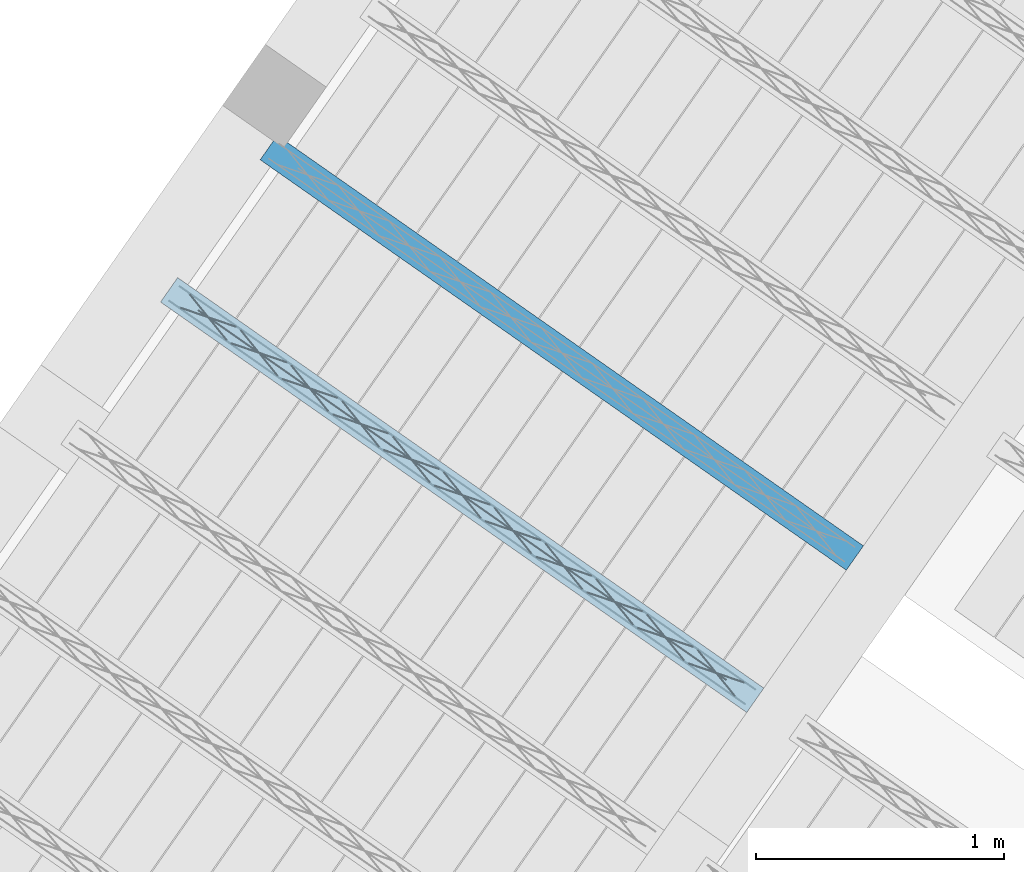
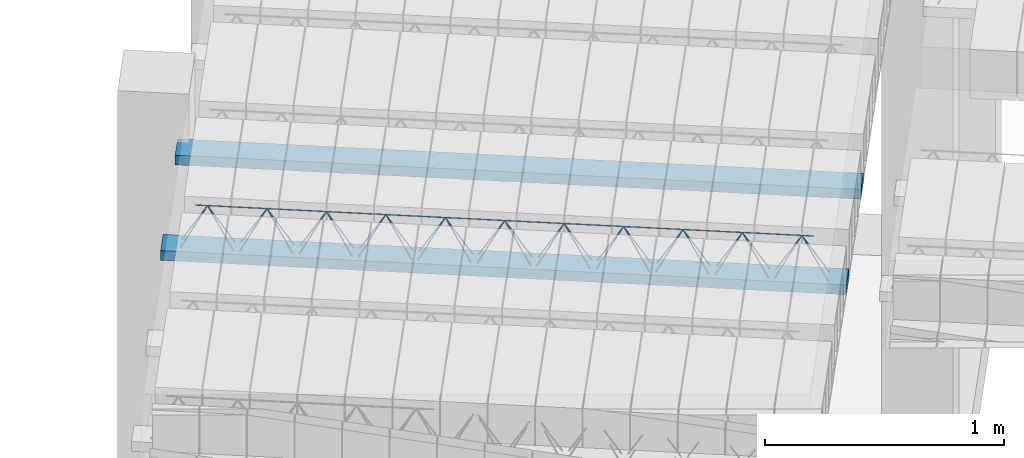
# One storey, part 31 of 80: 2 beams.
"""IFC2X3 building model written with IfcOpenShell, lengths in metres."""

from ifc_helpers import new_model, entity, si_unit, converted_unit, derived_unit, direction, frame, frame_2d, origin, origin_2d_with_axis, place, context, subcontext, project, spatial, rectangle, circle, extrude, material, type_object, element, save


model = new_model("IFC2X3")

# Units and contexts
model_context = context("Model", 3, precision=1e-05, world=origin(), true_north=direction((6.123031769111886e-17, 1.0)))
body_context = subcontext(model_context, "Body", "Model", "MODEL_VIEW")
ifc_project = project(units=[si_unit("LENGTHUNIT", "METRE"), si_unit("AREAUNIT", "SQUARE_METRE"), si_unit("VOLUMEUNIT", "CUBIC_METRE"), converted_unit("PLANEANGLEUNIT", "DEGREE", entity("IfcPlaneAngleMeasure", 0.017453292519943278), si_unit("PLANEANGLEUNIT", "RADIAN"), dimensions=[0, 0, 0, 0, 0, 0, 0]), si_unit("MASSUNIT", "GRAM", prefix="KILO"), derived_unit("MASSDENSITYUNIT", [(si_unit("MASSUNIT", "GRAM", prefix="KILO"), 1), (si_unit("LENGTHUNIT", "METRE"), -3)]), derived_unit("IONCONCENTRATIONUNIT", [(si_unit("MASSUNIT", "GRAM", prefix="KILO"), 1), (si_unit("LENGTHUNIT", "METRE"), -3)]), derived_unit("MOMENTOFINERTIAUNIT", [(si_unit("LENGTHUNIT", "METRE"), 4)]), si_unit("TIMEUNIT", "SECOND"), si_unit("FREQUENCYUNIT", "HERTZ"), si_unit("THERMODYNAMICTEMPERATUREUNIT", "DEGREE_CELSIUS"), derived_unit("THERMALTRANSMITTANCEUNIT", [(si_unit("MASSUNIT", "GRAM", prefix="KILO"), 1), (si_unit("THERMODYNAMICTEMPERATUREUNIT", "KELVIN"), -1), (si_unit("TIMEUNIT", "SECOND"), -3)]), derived_unit("THERMALCONDUCTANCEUNIT", [(si_unit("MASSUNIT", "GRAM", prefix="KILO"), 1), (si_unit("THERMODYNAMICTEMPERATUREUNIT", "KELVIN"), -1), (si_unit("TIMEUNIT", "SECOND"), -3), (si_unit("LENGTHUNIT", "METRE"), 1)]), derived_unit("VOLUMETRICFLOWRATEUNIT", [(si_unit("LENGTHUNIT", "METRE", prefix="DECI"), 3), (si_unit("TIMEUNIT", "SECOND"), -1)]), derived_unit("MASSFLOWRATEUNIT", [(si_unit("MASSUNIT", "GRAM", prefix="KILO"), 1), (si_unit("TIMEUNIT", "SECOND"), -1)]), derived_unit("ROTATIONALFREQUENCYUNIT", [(si_unit("TIMEUNIT", "SECOND"), -1)]), si_unit("ELECTRICCURRENTUNIT", "AMPERE"), si_unit("ELECTRICVOLTAGEUNIT", "VOLT"), si_unit("POWERUNIT", "WATT"), si_unit("FORCEUNIT", "NEWTON", prefix="KILO"), si_unit("ILLUMINANCEUNIT", "LUX"), si_unit("LUMINOUSFLUXUNIT", "LUMEN"), si_unit("LUMINOUSINTENSITYUNIT", "CANDELA"), si_unit("ENERGYUNIT", "JOULE"), derived_unit("USERDEFINED", [(si_unit("MASSUNIT", "GRAM", prefix="KILO"), -1), (si_unit("LENGTHUNIT", "METRE"), -2), (si_unit("TIMEUNIT", "SECOND"), 3), (si_unit("LUMINOUSFLUXUNIT", "LUMEN"), 1)]), derived_unit("USERDEFINED", [(si_unit("MASSUNIT", "GRAM", prefix="KILO"), 1), (si_unit("TIMEUNIT", "SECOND"), -3), (si_unit("LENGTHUNIT", "METRE"), 3), (si_unit("ELECTRICCURRENTUNIT", "AMPERE"), -2)]), derived_unit("SOUNDPOWERUNIT", [(si_unit("MASSUNIT", "GRAM", prefix="KILO"), 1), (si_unit("TIMEUNIT", "SECOND"), -3), (si_unit("LENGTHUNIT", "METRE"), 2)]), derived_unit("SOUNDPRESSUREUNIT", [(si_unit("MASSUNIT", "GRAM", prefix="KILO"), 1), (si_unit("LENGTHUNIT", "METRE"), -1), (si_unit("TIMEUNIT", "SECOND"), -2)]), derived_unit("LINEARVELOCITYUNIT", [(si_unit("LENGTHUNIT", "METRE"), 1), (si_unit("TIMEUNIT", "SECOND"), -1)]), si_unit("PRESSUREUNIT", "PASCAL"), derived_unit("USERDEFINED", [(si_unit("MASSUNIT", "GRAM", prefix="KILO"), 1), (si_unit("LENGTHUNIT", "METRE"), -2), (si_unit("TIMEUNIT", "SECOND"), -2)]), derived_unit("LINEARFORCEUNIT", [(si_unit("MASSUNIT", "GRAM", prefix="KILO"), 1), (si_unit("TIMEUNIT", "SECOND"), -2)]), derived_unit("PLANARFORCEUNIT", [(si_unit("MASSUNIT", "GRAM", prefix="KILO"), 1), (si_unit("LENGTHUNIT", "METRE"), -1), (si_unit("TIMEUNIT", "SECOND"), -2)]), derived_unit("SPECIFICHEATCAPACITYUNIT", [(si_unit("THERMODYNAMICTEMPERATUREUNIT", "KELVIN"), -1), (si_unit("LENGTHUNIT", "METRE"), 2), (si_unit("TIMEUNIT", "SECOND"), -2)]), derived_unit("HEATFLUXDENSITYUNIT", [(si_unit("MASSUNIT", "GRAM", prefix="KILO"), 1), (si_unit("TIMEUNIT", "SECOND"), -3)]), derived_unit("HEATINGVALUEUNIT", [(si_unit("LENGTHUNIT", "METRE"), 2), (si_unit("TIMEUNIT", "SECOND"), -2)]), derived_unit("VAPORPERMEABILITYUNIT", [(si_unit("LENGTHUNIT", "METRE"), -1), (si_unit("TIMEUNIT", "SECOND"), 1)]), derived_unit("DYNAMICVISCOSITYUNIT", [(si_unit("MASSUNIT", "GRAM", prefix="KILO"), 1), (si_unit("TIMEUNIT", "SECOND"), -1), (si_unit("LENGTHUNIT", "METRE"), -1)]), derived_unit("THERMALEXPANSIONCOEFFICIENTUNIT", [(si_unit("THERMODYNAMICTEMPERATUREUNIT", "KELVIN"), -1)]), derived_unit("MODULUSOFELASTICITYUNIT", [(si_unit("MASSUNIT", "GRAM", prefix="KILO"), 1), (si_unit("LENGTHUNIT", "METRE"), -1), (si_unit("TIMEUNIT", "SECOND"), -2)]), derived_unit("ISOTHERMALMOISTURECAPACITYUNIT", [(si_unit("MASSUNIT", "GRAM", prefix="KILO"), -1), (si_unit("LENGTHUNIT", "METRE"), 3)]), derived_unit("MOISTUREDIFFUSIVITYUNIT", [(si_unit("TIMEUNIT", "SECOND"), -1), (si_unit("LENGTHUNIT", "METRE"), 2)]), derived_unit("MASSPERLENGTHUNIT", [(si_unit("MASSUNIT", "GRAM", prefix="KILO"), 1), (si_unit("LENGTHUNIT", "METRE"), -1)]), derived_unit("THERMALRESISTANCEUNIT", [(si_unit("MASSUNIT", "GRAM", prefix="KILO"), -1), (si_unit("TIMEUNIT", "SECOND"), 3), (si_unit("THERMODYNAMICTEMPERATUREUNIT", "KELVIN"), 1)]), derived_unit("ACCELERATIONUNIT", [(si_unit("LENGTHUNIT", "METRE"), 1), (si_unit("TIMEUNIT", "SECOND"), -2)]), derived_unit("ANGULARVELOCITYUNIT", [(si_unit("TIMEUNIT", "SECOND"), -1), (si_unit("PLANEANGLEUNIT", "RADIAN"), 1)]), derived_unit("LINEARSTIFFNESSUNIT", [(si_unit("MASSUNIT", "GRAM", prefix="KILO"), 1), (si_unit("TIMEUNIT", "SECOND"), -2)]), derived_unit("WARPINGCONSTANTUNIT", [(si_unit("LENGTHUNIT", "METRE"), 6)]), derived_unit("LINEARMOMENTUNIT", [(si_unit("MASSUNIT", "GRAM", prefix="KILO"), 1), (si_unit("LENGTHUNIT", "METRE"), 1), (si_unit("TIMEUNIT", "SECOND"), -2)]), derived_unit("TORQUEUNIT", [(si_unit("MASSUNIT", "GRAM", prefix="KILO"), 1), (si_unit("LENGTHUNIT", "METRE"), 2), (si_unit("TIMEUNIT", "SECOND"), -2)])], contexts=[model_context])

# Site, building, storey
site_placement = place(None, origin())
site = spatial("IfcSite", under=ifc_project, at=site_placement, Name="Default", CompositionType="ELEMENT")
building_placement = place(site_placement, origin())
building = spatial("IfcBuilding", under=site, at=building_placement, CompositionType="ELEMENT")
storey_placement = place(building_placement, frame((0.0, 0.0, 95.94)))
storey = spatial("IfcBuildingStorey", under=building, at=storey_placement, Name="PB", CompositionType="ELEMENT", Elevation=95.94)

# Beams
beam_type = type_object("IfcBeamType", Name="Vigueta 9 (Paño 2) (Mf = 11)", PredefinedType="JOIST")
beam_1_placement = place(storey_placement, origin())
element("IfcBeam", 1, at=beam_1_placement, inside=storey, type_object=beam_type, Name="Vigueta 9 (Paño 2) (Mf = 11)", ObjectType="Mf = 11", context=body_context, shape_type="SweptSolid", body=[
    extrude(rectangle(XDim=2.8844972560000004, YDim=0.12000000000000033, at=frame_2d((-2.220446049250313e-16, -2.706168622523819e-16), x_axis=(1.0, 0.0))), frame((3.2134171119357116, 6.478823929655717, 2.82), z_axis=(0.0, 0.0, 1.0), x_axis=(0.8191520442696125, -0.5735764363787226, 0.0)), (0.0, 0.0, 1.0), 0.04999999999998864),
    extrude(circle(Radius=0.0025, at=origin_2d_with_axis()), frame((4.35452962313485, 5.635860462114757, 2.8449999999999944), z_axis=(-0.8191520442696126, 0.5735764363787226, 0.0), x_axis=(-0.5735764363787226, -0.8191520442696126, 0.0)), (0.0, 0.0, 1.0), 2.836497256),
    extrude(circle(Radius=0.0025, at=origin_2d_with_axis()), frame((2.1485194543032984, 7.224473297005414, 3.069999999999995), z_axis=(0.8191520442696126, -0.5735764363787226, 0.0), x_axis=(-0.5735764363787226, -0.8191520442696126, 0.0)), (0.0, 0.0, 1.0), 2.5999999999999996),
    extrude(circle(Radius=0.0025, at=origin_2d_with_axis()), frame((4.319102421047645, 5.660666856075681, 2.8449999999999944), z_axis=(-0.3145304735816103, 0.389334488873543, 0.8657304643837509), x_axis=(-0.7778747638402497, -0.6284193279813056, 0.0)), (0.0, 0.0, 1.0), 0.2598961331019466),
    extrude(circle(Radius=0.0025, at=origin_2d_with_axis()), frame((4.114314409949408, 5.804060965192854, 2.8449999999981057), z_axis=(0.47343050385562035, -0.1624017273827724, 0.8657304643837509), x_axis=(-0.3244721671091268, -0.9458952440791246, 0.0)), (0.0, 0.0, 1.0), 0.25989613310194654),
    extrude(circle(Radius=0.0025, at=origin_2d_with_axis()), frame((4.114314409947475, 5.804060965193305, 2.8449999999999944), z_axis=(-0.3145304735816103, 0.389334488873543, 0.8657304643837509), x_axis=(-0.7778747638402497, -0.6284193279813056, 0.0)), (0.0, 0.0, 1.0), 0.2598961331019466),
    extrude(circle(Radius=0.0025, at=origin_2d_with_axis()), frame((3.909526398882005, 5.947455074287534, 2.8449999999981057), z_axis=(0.47343050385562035, -0.1624017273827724, 0.8657304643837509), x_axis=(-0.3244721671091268, -0.9458952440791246, 0.0)), (0.0, 0.0, 1.0), 0.25989613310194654),
    extrude(circle(Radius=0.0025, at=origin_2d_with_axis()), frame((3.909526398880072, 5.947455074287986, 2.8449999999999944), z_axis=(-0.3145304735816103, 0.389334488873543, 0.8657304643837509), x_axis=(-0.7778747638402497, -0.6284193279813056, 0.0)), (0.0, 0.0, 1.0), 0.2598961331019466),
    extrude(circle(Radius=0.0025, at=origin_2d_with_axis()), frame((3.7047383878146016, 6.090849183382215, 2.8449999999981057), z_axis=(0.47343050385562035, -0.1624017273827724, 0.8657304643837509), x_axis=(-0.3244721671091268, -0.9458952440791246, 0.0)), (0.0, 0.0, 1.0), 0.25989613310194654),
    extrude(circle(Radius=0.0025, at=origin_2d_with_axis()), frame((3.704738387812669, 6.090849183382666, 2.8449999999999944), z_axis=(-0.3145304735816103, 0.389334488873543, 0.8657304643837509), x_axis=(-0.7778747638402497, -0.6284193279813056, 0.0)), (0.0, 0.0, 1.0), 0.2598961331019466),
    extrude(circle(Radius=0.0025, at=origin_2d_with_axis()), frame((3.4999503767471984, 6.234243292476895, 2.8449999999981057), z_axis=(0.47343050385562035, -0.1624017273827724, 0.8657304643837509), x_axis=(-0.3244721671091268, -0.9458952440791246, 0.0)), (0.0, 0.0, 1.0), 0.25989613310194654),
    extrude(circle(Radius=0.0025, at=origin_2d_with_axis()), frame((3.499950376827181, 6.234243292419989, 2.8449999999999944), z_axis=(-0.3145304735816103, 0.389334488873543, 0.8657304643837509), x_axis=(-0.7778747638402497, -0.6284193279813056, 0.0)), (0.0, 0.0, 1.0), 0.2598961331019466),
    extrude(circle(Radius=0.0025, at=origin_2d_with_axis()), frame((3.2951623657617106, 6.377637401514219, 2.8449999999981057), z_axis=(0.47343050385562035, -0.1624017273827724, 0.8657304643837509), x_axis=(-0.3244721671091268, -0.9458952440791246, 0.0)), (0.0, 0.0, 1.0), 0.25989613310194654),
    extrude(circle(Radius=0.0025, at=origin_2d_with_axis()), frame((3.2951623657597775, 6.3776374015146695, 2.8449999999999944), z_axis=(-0.3145304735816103, 0.389334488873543, 0.8657304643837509), x_axis=(-0.7778747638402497, -0.6284193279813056, 0.0)), (0.0, 0.0, 1.0), 0.2598961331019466),
    extrude(circle(Radius=0.0025, at=origin_2d_with_axis()), frame((3.090374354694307, 6.521031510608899, 2.8449999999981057), z_axis=(0.47343050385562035, -0.1624017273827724, 0.8657304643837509), x_axis=(-0.3244721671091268, -0.9458952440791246, 0.0)), (0.0, 0.0, 1.0), 0.25989613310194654),
    extrude(circle(Radius=0.0025, at=origin_2d_with_axis()), frame((3.0903743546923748, 6.52103151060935, 2.8449999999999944), z_axis=(-0.3145304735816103, 0.389334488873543, 0.8657304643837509), x_axis=(-0.7778747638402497, -0.6284193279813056, 0.0)), (0.0, 0.0, 1.0), 0.2598961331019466),
    extrude(circle(Radius=0.0025, at=origin_2d_with_axis()), frame((2.885586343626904, 6.66442561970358, 2.8449999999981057), z_axis=(0.47343050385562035, -0.1624017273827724, 0.8657304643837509), x_axis=(-0.3244721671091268, -0.9458952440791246, 0.0)), (0.0, 0.0, 1.0), 0.25989613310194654),
    extrude(circle(Radius=0.0025, at=origin_2d_with_axis()), frame((2.885586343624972, 6.664425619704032, 2.8449999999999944), z_axis=(-0.3145304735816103, 0.389334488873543, 0.8657304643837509), x_axis=(-0.7778747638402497, -0.6284193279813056, 0.0)), (0.0, 0.0, 1.0), 0.2598961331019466),
    extrude(circle(Radius=0.0025, at=origin_2d_with_axis()), frame((2.680798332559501, 6.80781972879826, 2.8449999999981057), z_axis=(0.47343050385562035, -0.1624017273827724, 0.8657304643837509), x_axis=(-0.3244721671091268, -0.9458952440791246, 0.0)), (0.0, 0.0, 1.0), 0.25989613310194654),
    extrude(circle(Radius=0.0025, at=origin_2d_with_axis()), frame((2.6807983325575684, 6.8078197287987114, 2.8449999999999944), z_axis=(-0.3145304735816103, 0.389334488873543, 0.8657304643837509), x_axis=(-0.7778747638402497, -0.6284193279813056, 0.0)), (0.0, 0.0, 1.0), 0.2598961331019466),
    extrude(circle(Radius=0.0025, at=origin_2d_with_axis()), frame((2.476010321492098, 6.951213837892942, 2.8449999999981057), z_axis=(0.47343050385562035, -0.1624017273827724, 0.8657304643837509), x_axis=(-0.3244721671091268, -0.9458952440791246, 0.0)), (0.0, 0.0, 1.0), 0.25989613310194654),
    extrude(circle(Radius=0.0025, at=origin_2d_with_axis()), frame((2.476010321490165, 6.951213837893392, 2.8449999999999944), z_axis=(-0.3145304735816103, 0.389334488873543, 0.8657304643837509), x_axis=(-0.7778747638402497, -0.6284193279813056, 0.0)), (0.0, 0.0, 1.0), 0.2598961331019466),
    extrude(circle(Radius=0.0025, at=origin_2d_with_axis()), frame((2.2712223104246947, 7.0946079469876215, 2.8449999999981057), z_axis=(0.47343050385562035, -0.1624017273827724, 0.8657304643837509), x_axis=(-0.3244721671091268, -0.9458952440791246, 0.0)), (0.0, 0.0, 1.0), 0.25989613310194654),
    extrude(circle(Radius=0.0025, at=origin_2d_with_axis()), frame((2.271222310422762, 7.094607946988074, 2.8449999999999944), z_axis=(-0.3145304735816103, 0.389334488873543, 0.8657304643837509), x_axis=(-0.7778747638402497, -0.6284193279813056, 0.0)), (0.0, 0.0, 1.0), 0.2598961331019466),
    extrude(circle(Radius=0.0025, at=origin_2d_with_axis()), frame((2.066434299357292, 7.238002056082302, 2.8449999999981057), z_axis=(0.47343050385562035, -0.1624017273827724, 0.8657304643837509), x_axis=(-0.3244721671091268, -0.9458952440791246, 0.0)), (0.0, 0.0, 1.0), 0.25989613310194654),
    extrude(circle(Radius=0.0025, at=origin_2d_with_axis()), frame((4.395827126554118, 5.694839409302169, 2.8449999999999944), z_axis=(-0.8191520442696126, 0.5735764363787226, 0.0), x_axis=(-0.5735764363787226, -0.8191520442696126, 0.0)), (0.0, 0.0, 1.0), 2.836497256),
    extrude(circle(Radius=0.0025, at=origin_2d_with_axis()), frame((4.360399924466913, 5.719645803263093, 2.8449999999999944), z_axis=(-0.47343050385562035, 0.1624017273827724, 0.8657304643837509), x_axis=(-0.3244721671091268, -0.9458952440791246, 0.0)), (0.0, 0.0, 1.0), 0.25989613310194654),
    extrude(circle(Radius=0.0025, at=origin_2d_with_axis()), frame((4.155611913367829, 5.863039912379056, 2.8449999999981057), z_axis=(0.3145304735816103, -0.389334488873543, 0.8657304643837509), x_axis=(-0.7778747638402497, -0.6284193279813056, 0.0)), (0.0, 0.0, 1.0), 0.2598961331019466),
    extrude(circle(Radius=0.0025, at=origin_2d_with_axis()), frame((4.1556119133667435, 5.863039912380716, 2.8449999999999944), z_axis=(-0.47343050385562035, 0.1624017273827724, 0.8657304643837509), x_axis=(-0.3244721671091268, -0.9458952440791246, 0.0)), (0.0, 0.0, 1.0), 0.25989613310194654),
    extrude(circle(Radius=0.0025, at=origin_2d_with_axis()), frame((3.9508239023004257, 6.006434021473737, 2.8449999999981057), z_axis=(0.3145304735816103, -0.389334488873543, 0.8657304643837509), x_axis=(-0.7778747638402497, -0.6284193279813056, 0.0)), (0.0, 0.0, 1.0), 0.2598961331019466),
    extrude(circle(Radius=0.0025, at=origin_2d_with_axis()), frame((3.9508239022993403, 6.006434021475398, 2.8449999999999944), z_axis=(-0.47343050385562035, 0.1624017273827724, 0.8657304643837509), x_axis=(-0.3244721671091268, -0.9458952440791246, 0.0)), (0.0, 0.0, 1.0), 0.25989613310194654),
    extrude(circle(Radius=0.0025, at=origin_2d_with_axis()), frame((3.7460358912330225, 6.149828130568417, 2.8449999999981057), z_axis=(0.3145304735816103, -0.389334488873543, 0.8657304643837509), x_axis=(-0.7778747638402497, -0.6284193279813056, 0.0)), (0.0, 0.0, 1.0), 0.2598961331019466),
    extrude(circle(Radius=0.0025, at=origin_2d_with_axis()), frame((3.746035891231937, 6.149828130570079, 2.8449999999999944), z_axis=(-0.47343050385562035, 0.1624017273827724, 0.8657304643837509), x_axis=(-0.3244721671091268, -0.9458952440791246, 0.0)), (0.0, 0.0, 1.0), 0.25989613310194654),
    extrude(circle(Radius=0.0025, at=origin_2d_with_axis()), frame((3.5412478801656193, 6.2932222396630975, 2.8449999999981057), z_axis=(0.3145304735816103, -0.389334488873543, 0.8657304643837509), x_axis=(-0.7778747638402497, -0.6284193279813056, 0.0)), (0.0, 0.0, 1.0), 0.2598961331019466),
    extrude(circle(Radius=0.0025, at=origin_2d_with_axis()), frame((3.5412478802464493, 6.293222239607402, 2.8449999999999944), z_axis=(-0.47343050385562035, 0.1624017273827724, 0.8657304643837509), x_axis=(-0.3244721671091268, -0.9458952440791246, 0.0)), (0.0, 0.0, 1.0), 0.25989613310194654),
    extrude(circle(Radius=0.0025, at=origin_2d_with_axis()), frame((3.3364598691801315, 6.436616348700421, 2.8449999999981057), z_axis=(0.3145304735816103, -0.389334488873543, 0.8657304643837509), x_axis=(-0.7778747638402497, -0.6284193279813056, 0.0)), (0.0, 0.0, 1.0), 0.2598961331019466),
    extrude(circle(Radius=0.0025, at=origin_2d_with_axis()), frame((3.3364598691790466, 6.436616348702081, 2.8449999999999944), z_axis=(-0.47343050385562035, 0.1624017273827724, 0.8657304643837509), x_axis=(-0.3244721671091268, -0.9458952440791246, 0.0)), (0.0, 0.0, 1.0), 0.25989613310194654),
    extrude(circle(Radius=0.0025, at=origin_2d_with_axis()), frame((3.1316718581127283, 6.580010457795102, 2.8449999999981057), z_axis=(0.3145304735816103, -0.389334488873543, 0.8657304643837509), x_axis=(-0.7778747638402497, -0.6284193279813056, 0.0)), (0.0, 0.0, 1.0), 0.2598961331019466),
    extrude(circle(Radius=0.0025, at=origin_2d_with_axis()), frame((3.131671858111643, 6.580010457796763, 2.8449999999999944), z_axis=(-0.47343050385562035, 0.1624017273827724, 0.8657304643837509), x_axis=(-0.3244721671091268, -0.9458952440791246, 0.0)), (0.0, 0.0, 1.0), 0.25989613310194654),
    extrude(circle(Radius=0.0025, at=origin_2d_with_axis()), frame((2.9268838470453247, 6.723404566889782, 2.8449999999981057), z_axis=(0.3145304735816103, -0.389334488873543, 0.8657304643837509), x_axis=(-0.7778747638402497, -0.6284193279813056, 0.0)), (0.0, 0.0, 1.0), 0.2598961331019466),
    extrude(circle(Radius=0.0025, at=origin_2d_with_axis()), frame((2.9268838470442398, 6.7234045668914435, 2.8449999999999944), z_axis=(-0.47343050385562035, 0.1624017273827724, 0.8657304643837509), x_axis=(-0.3244721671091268, -0.9458952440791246, 0.0)), (0.0, 0.0, 1.0), 0.25989613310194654),
    extrude(circle(Radius=0.0025, at=origin_2d_with_axis()), frame((2.722095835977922, 6.866798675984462, 2.8449999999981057), z_axis=(0.3145304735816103, -0.389334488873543, 0.8657304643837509), x_axis=(-0.7778747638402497, -0.6284193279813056, 0.0)), (0.0, 0.0, 1.0), 0.2598961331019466),
    extrude(circle(Radius=0.0025, at=origin_2d_with_axis()), frame((2.7220958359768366, 6.866798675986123, 2.8449999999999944), z_axis=(-0.47343050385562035, 0.1624017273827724, 0.8657304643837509), x_axis=(-0.3244721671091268, -0.9458952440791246, 0.0)), (0.0, 0.0, 1.0), 0.25989613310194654),
    extrude(circle(Radius=0.0025, at=origin_2d_with_axis()), frame((2.5173078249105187, 7.010192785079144, 2.8449999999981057), z_axis=(0.3145304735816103, -0.389334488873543, 0.8657304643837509), x_axis=(-0.7778747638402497, -0.6284193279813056, 0.0)), (0.0, 0.0, 1.0), 0.2598961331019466),
    extrude(circle(Radius=0.0025, at=origin_2d_with_axis()), frame((2.5173078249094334, 7.010192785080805, 2.8449999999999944), z_axis=(-0.47343050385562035, 0.1624017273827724, 0.8657304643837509), x_axis=(-0.3244721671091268, -0.9458952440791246, 0.0)), (0.0, 0.0, 1.0), 0.25989613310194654),
    extrude(circle(Radius=0.0025, at=origin_2d_with_axis()), frame((2.3125198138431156, 7.153586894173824, 2.8449999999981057), z_axis=(0.3145304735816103, -0.389334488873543, 0.8657304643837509), x_axis=(-0.7778747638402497, -0.6284193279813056, 0.0)), (0.0, 0.0, 1.0), 0.2598961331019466),
    extrude(circle(Radius=0.0025, at=origin_2d_with_axis()), frame((2.31251981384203, 7.153586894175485, 2.8449999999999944), z_axis=(-0.47343050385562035, 0.1624017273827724, 0.8657304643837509), x_axis=(-0.3244721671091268, -0.9458952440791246, 0.0)), (0.0, 0.0, 1.0), 0.25989613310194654),
    extrude(circle(Radius=0.0025, at=origin_2d_with_axis()), frame((2.107731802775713, 7.296981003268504, 2.8449999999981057), z_axis=(0.3145304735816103, -0.389334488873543, 0.8657304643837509), x_axis=(-0.7778747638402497, -0.6284193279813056, 0.0)), (0.0, 0.0, 1.0), 0.2598961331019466),
])
ifc_material = material(Name="Hormigón armado")
beam_2_placement = place(storey_placement, origin())
element("IfcBeam", 2, at=beam_2_placement, inside=storey, material=ifc_material, Name="237984", context=body_context, shape_type="SweptSolid", body=[
    extrude(rectangle(XDim=0.04999999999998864, YDim=0.1199999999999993, at=frame_2d((1.7324683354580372e-14, 7.632783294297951e-17), x_axis=(1.0, 0.0))), frame((2.4335285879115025, 7.879449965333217, 2.8450000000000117), z_axis=(0.8191520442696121, -0.5735764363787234, 0.0), x_axis=(0.0, 0.0, -1.0)), (0.0, 0.0, 1.0), 2.8844619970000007),
])

save(model, "model.ifc")
